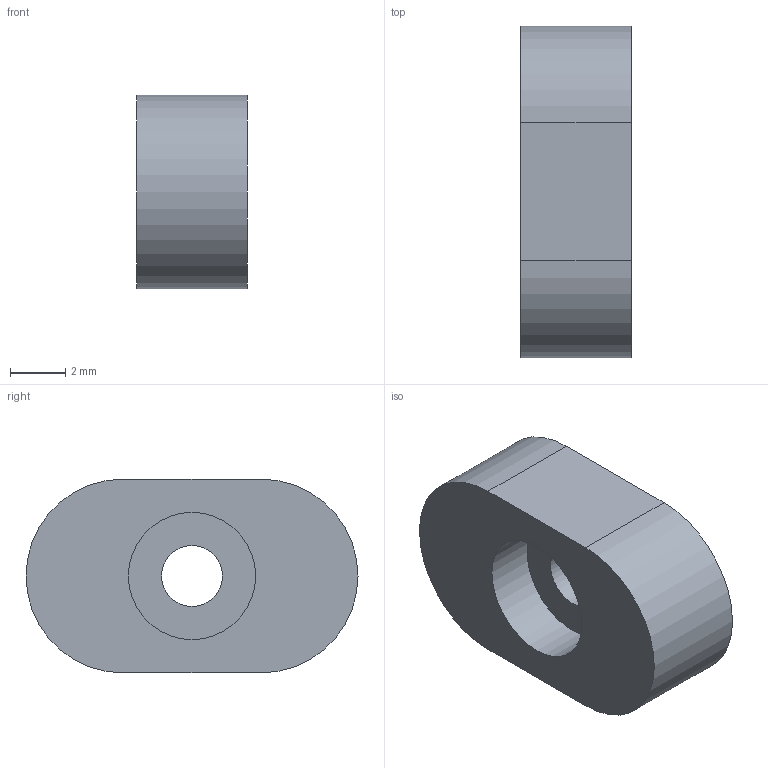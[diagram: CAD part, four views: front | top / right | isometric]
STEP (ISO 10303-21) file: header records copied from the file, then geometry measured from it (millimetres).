
FILE_DESCRIPTION(('Open CASCADE Model'),'2;1');
FILE_NAME('Open CASCADE Shape Model','2026-11-15T10:52:12',('Author'),( 'Open CASCADE'),'Open CASCADE STEP processor 7.8','Open CASCADE 7.8' ,'Unknown');
FILE_SCHEMA(('AUTOMOTIVE_DESIGN { 1 0 10303 214 1 1 1 1 }'));
Length unit declared in the file: millimetre
Products named in the file (1): Open CASCADE STEP translator 7.8 4
Bounding box: 4 x 12 x 7 mm (x, y, z)
Volume: 243.6 mm3; surface area: 316.1 mm2
Topology: 1 solids, 1 shells, 11 faces, 21 edges, 14 vertices
Faces by surface type: plane 6, cylinder 5
Full cylindrical faces by diameter (mm): 2.2 x1, 4.2 x1, 4.6 x1
Entity records: 596 total; most frequent: CARTESIAN_POINT 137, DIRECTION 89, LINE 43, VECTOR 43, ORIENTED_EDGE 42, PCURVE 42, DEFINITIONAL_REPRESENTATION 42, AXIS2_PLACEMENT_3D 22
